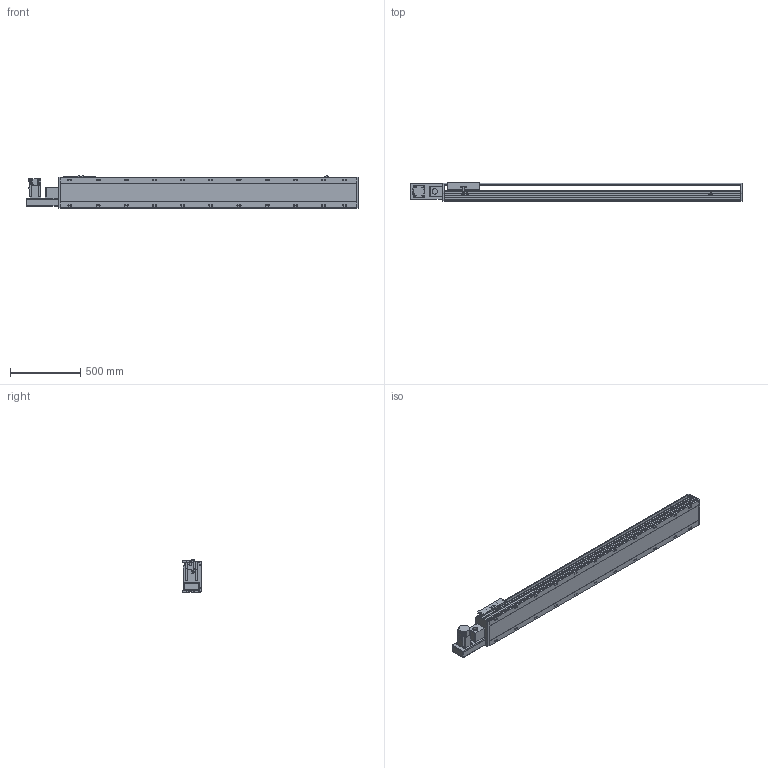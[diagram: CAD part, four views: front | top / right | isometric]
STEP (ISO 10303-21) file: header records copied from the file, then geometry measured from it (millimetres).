
FILE_DESCRIPTION(/* description */ ('STEP AP214'),/* implementation_level */ '2;1');
FILE_NAME(/* name */ 'PBS220-P40-S1750-L-T75-C1-N(0)',/* time_stamp */ '2022-06-11T09:56:40+02:00',/* author */ ('License CC BY-ND 4.0'),/* organization */ ('CADENAS'),/* preprocessor_version */ 'ST-DEVELOPER v18.102',/* originating_system */ 'PARTsolutions',/* authorisation */ ' ');
FILE_SCHEMA (('AUTOMOTIVE_DESIGN {1 0 10303 214 3 1 1}'));
Length unit declared in the file: millimetre
Products named in the file (7): PBS220-P40-S1750-L-T75-C1-N(0); PBS220_sensor; PBS220_plant; PBS220_sliser; T75-p1; PBS220T-L_motors; PBS220-S1750()_body
Assembly tree (8 placements, depth 2):
  PBS220-P40-S1750-L-T75-C1-N(0)
    PBS220_sensor  x3
    PBS220_plant
    PBS220_sliser
    T75-p1
    PBS220T-L_motors
    PBS220-S1750()_body
Bounding box: 2356 x 134 x 238.5 mm (x, y, z)
Volume: 31559147.5 mm3; surface area: 2959468 mm2
Topology: 8 solids, 8 shells, 950 faces, 2480 edges, 1612 vertices
Faces by surface type: plane 610, cylinder 294, cone 46
Full cylindrical faces by diameter (mm): 2.013 x4, 4.5 x14, 4.917 x4, 6 x7, 6.647 x8, 8 x10, 8.376 x22, 8.5 x22, 10 x6, 14 x22, 38 x2, 40 x1, 70 x1
Entity records: 26565 total; most frequent: CARTESIAN_POINT 4690, DIRECTION 4617, ORIENTED_EDGE 4214, EDGE_CURVE 2107, AXIS2_PLACEMENT_3D 1633, VERTEX_POINT 1464, LINE 1351, VECTOR 1351
